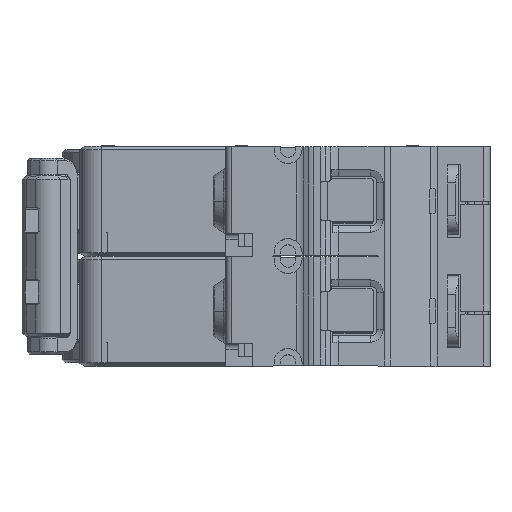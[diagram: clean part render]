
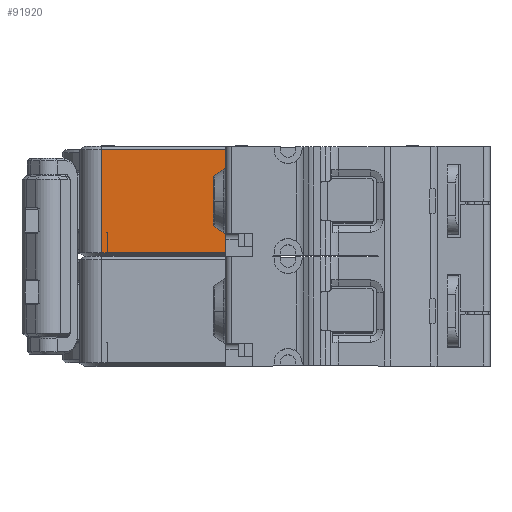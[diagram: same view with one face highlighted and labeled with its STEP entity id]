
A CAD part, top view. The second image highlights one B-rep face of the part: STEP entity #91920.
In plain terms, the highlighted planar face has unit normal (0, 0, 1).
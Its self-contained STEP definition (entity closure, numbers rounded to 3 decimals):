
#4983=DIRECTION('',(0.,-1.,0.));
#4984=VECTOR('',#4983,3.3);
#4985=CARTESIAN_POINT('',(-10.05,21.55,30.));
#4986=LINE('',#4985,#4984);
#4987=DIRECTION('',(-1.,0.,0.));
#4988=VECTOR('',#4987,0.95);
#4989=CARTESIAN_POINT('',(-10.05,18.25,30.));
#4990=LINE('',#4989,#4988);
#4991=DIRECTION('',(1.,0.,0.));
#4992=VECTOR('',#4991,20.);
#4993=CARTESIAN_POINT('',(-11.,34.85,30.));
#4994=LINE('',#4993,#4992);
#4995=DIRECTION('',(0.,-1.,0.));
#4996=VECTOR('',#4995,16.6);
#4997=CARTESIAN_POINT('',(9.,34.85,30.));
#4998=LINE('',#4997,#4996);
#5003=DIRECTION('',(0.,-1.,0.));
#5004=VECTOR('',#5003,3.3);
#5005=CARTESIAN_POINT('',(-10.,21.55,30.));
#5006=LINE('',#5005,#5004);
#5027=DIRECTION('',(1.,0.,0.));
#5028=VECTOR('',#5027,0.05);
#5029=CARTESIAN_POINT('',(-10.05,21.55,30.));
#5030=LINE('',#5029,#5028);
#5113=DIRECTION('',(1.,0.,0.));
#5114=VECTOR('',#5113,19.);
#5115=CARTESIAN_POINT('',(-10.,18.25,30.));
#5116=LINE('',#5115,#5114);
#12122=DIRECTION('',(0.,-1.,0.));
#12123=VECTOR('',#12122,16.6);
#12124=CARTESIAN_POINT('',(-11.,34.85,
30.));
#12125=LINE('',#12124,#12123);
#79917=CARTESIAN_POINT('',(-10.,18.25,30.));
#79918=CARTESIAN_POINT('',(9.,18.25,30.));
#79919=VERTEX_POINT('',#79917);
#79920=VERTEX_POINT('',#79918);
#84153=CARTESIAN_POINT('',(9.,34.85,30.));
#84154=VERTEX_POINT('',#84153);
#84261=CARTESIAN_POINT('',(-11.,18.25,30.));
#84262=VERTEX_POINT('',#84261);
#84265=CARTESIAN_POINT('',(-11.,34.85,30.));
#84266=VERTEX_POINT('',#84265);
#84283=CARTESIAN_POINT('',(-10.05,21.55,30.));
#84284=CARTESIAN_POINT('',(-10.05,18.25,
30.));
#84285=VERTEX_POINT('',#84283);
#84286=VERTEX_POINT('',#84284);
#85355=CARTESIAN_POINT('',(-10.,21.55,30.));
#85357=VERTEX_POINT('',#85355);
#91898=CARTESIAN_POINT('',(-14.,17.7,30.));
#91899=DIRECTION('',(0.,0.,1.));
#91900=DIRECTION('',(1.,0.,0.));
#91901=AXIS2_PLACEMENT_3D('',#91898,#91899,#91900);
#91902=PLANE('',#91901);
#91904=ORIENTED_EDGE('',*,*,#91903,.F.);
#91906=ORIENTED_EDGE('',*,*,#91905,.F.);
#91908=ORIENTED_EDGE('',*,*,#91907,.T.);
#91910=ORIENTED_EDGE('',*,*,#91909,.T.);
#91912=ORIENTED_EDGE('',*,*,#91911,.F.);
#91914=ORIENTED_EDGE('',*,*,#91913,.T.);
#91915=ORIENTED_EDGE('',*,*,#91836,.T.);
#91917=ORIENTED_EDGE('',*,*,#91916,.F.);
#91918=EDGE_LOOP('',(#91904,#91906,#91908,#91910,#91912,#91914,#91915,#91917));
#91919=FACE_OUTER_BOUND('',#91918,.F.);
#91920=ADVANCED_FACE('',(#91919),#91902,.T.);
#91836=EDGE_CURVE('',#84154,#79920,#4998,.T.);
#91903=EDGE_CURVE('',#85357,#79919,#5006,.T.);
#91905=EDGE_CURVE('',#84285,#85357,#5030,.T.);
#91907=EDGE_CURVE('',#84285,#84286,#4986,.T.);
#91909=EDGE_CURVE('',#84286,#84262,#4990,.T.);
#91911=EDGE_CURVE('',#84266,#84262,#12125,.T.);
#91913=EDGE_CURVE('',#84266,#84154,#4994,.T.);
#91916=EDGE_CURVE('',#79919,#79920,#5116,.T.);
